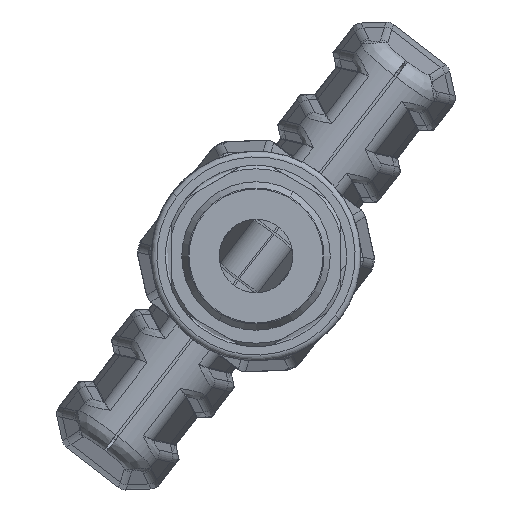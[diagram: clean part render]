
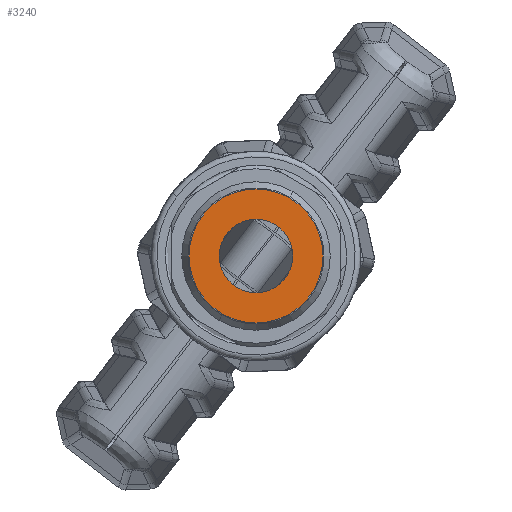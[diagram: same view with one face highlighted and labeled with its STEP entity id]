
A CAD part, front view. The second image highlights one B-rep face of the part: STEP entity #3240.
In plain terms, the highlighted planar face has unit normal (0, -1, 0).
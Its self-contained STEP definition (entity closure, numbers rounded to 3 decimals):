
#1200 = EDGE_CURVE ( 'NONE', #32830, #10402, #64966, .T. ) ;
#1806 = FACE_OUTER_BOUND ( 'NONE', #7048, .T. ) ;
#2315 = CARTESIAN_POINT ( 'NONE',  ( -71.729, -75.095, -20.76 ) ) ;
#3240 = ADVANCED_FACE ( 'NONE', ( #1806, #40175 ), #40205, .F. ) ;
#7035 = EDGE_LOOP ( 'NONE', ( #43240, #7771 ) ) ;
#7048 = EDGE_LOOP ( 'NONE', ( #20051, #11512 ) ) ;
#7128 = CIRCLE ( 'NONE', #8576, 3.25 ) ;
#7771 = ORIENTED_EDGE ( 'NONE', *, *, #32546, .T. ) ;
#8139 = EDGE_CURVE ( 'NONE', #40749, #57327, #7128, .T. ) ;
#8576 = AXIS2_PLACEMENT_3D ( 'NONE', #44210, #32978, #39173 ) ;
#10402 = VERTEX_POINT ( 'NONE', #24413 ) ;
#11512 = ORIENTED_EDGE ( 'NONE', *, *, #1200, .T. ) ;
#13296 = DIRECTION ( 'NONE',  ( 0.5, 0., 0.866 ) ) ;
#15428 = AXIS2_PLACEMENT_3D ( 'NONE', #2315, #23276, #40435 ) ;
#20051 = ORIENTED_EDGE ( 'NONE', *, *, #34883, .T. ) ;
#23276 = DIRECTION ( 'NONE',  ( 0., 1., 0. ) ) ;
#24413 = CARTESIAN_POINT ( 'NONE',  ( -68.772, -75.095, -15.637 ) ) ;
#25629 = CARTESIAN_POINT ( 'NONE',  ( -71.729, -75.095, -20.76 ) ) ;
#31080 = DIRECTION ( 'NONE',  ( 0., -1., 0. ) ) ;
#32546 = EDGE_CURVE ( 'NONE', #57327, #40749, #38690, .T. ) ;
#32830 = VERTEX_POINT ( 'NONE', #58509 ) ;
#32978 = DIRECTION ( 'NONE',  ( 0., 1., 0. ) ) ;
#34883 = EDGE_CURVE ( 'NONE', #10402, #32830, #37752, .T. ) ;
#35449 = DIRECTION ( 'NONE',  ( 0., 1., 0. ) ) ;
#36427 = DIRECTION ( 'NONE',  ( 0.5, 0., 0.866 ) ) ;
#37752 = CIRCLE ( 'NONE', #52960, 5.915 ) ;
#38690 = CIRCLE ( 'NONE', #15428, 3.25 ) ;
#39173 = DIRECTION ( 'NONE',  ( 0.5, 0., 0.866 ) ) ;
#40175 = FACE_BOUND ( 'NONE', #7035, .T. ) ;
#40205 = PLANE ( 'NONE',  #67270 ) ;
#40435 = DIRECTION ( 'NONE',  ( 0.5, 0., 0.866 ) ) ;
#40749 = VERTEX_POINT ( 'NONE', #46075 ) ;
#43240 = ORIENTED_EDGE ( 'NONE', *, *, #8139, .T. ) ;
#44210 = CARTESIAN_POINT ( 'NONE',  ( -71.729, -75.095, -20.76 ) ) ;
#45973 = CARTESIAN_POINT ( 'NONE',  ( -70.104, -75.095, -17.945 ) ) ;
#46075 = CARTESIAN_POINT ( 'NONE',  ( -73.354, -75.095, -23.574 ) ) ;
#51284 = DIRECTION ( 'NONE',  ( 0.5, 0., 0.866 ) ) ;
#51695 = CARTESIAN_POINT ( 'NONE',  ( -71.729, -75.095, -20.76 ) ) ;
#52960 = AXIS2_PLACEMENT_3D ( 'NONE', #61465, #61703, #51284 ) ;
#53168 = AXIS2_PLACEMENT_3D ( 'NONE', #25629, #31080, #36427 ) ;
#57327 = VERTEX_POINT ( 'NONE', #45973 ) ;
#58509 = CARTESIAN_POINT ( 'NONE',  ( -74.687, -75.095, -25.882 ) ) ;
#61465 = CARTESIAN_POINT ( 'NONE',  ( -71.729, -75.095, -20.76 ) ) ;
#61703 = DIRECTION ( 'NONE',  ( 0., -1., 0. ) ) ;
#64966 = CIRCLE ( 'NONE', #53168, 5.915 ) ;
#67270 = AXIS2_PLACEMENT_3D ( 'NONE', #51695, #35449, #13296 ) ;
